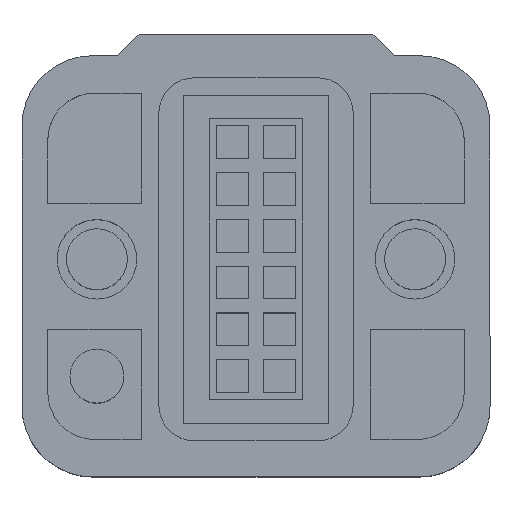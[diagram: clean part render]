
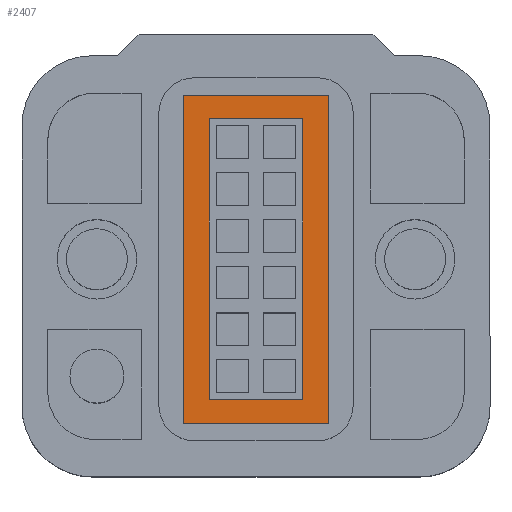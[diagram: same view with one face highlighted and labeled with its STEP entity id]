
A CAD part, top view. The second image highlights one B-rep face of the part: STEP entity #2407.
In plain terms, the highlighted planar face has unit normal (0, 0, 1).
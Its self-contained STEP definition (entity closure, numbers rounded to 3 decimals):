
#138 = VECTOR ( 'NONE', #2411, 1000. ) ;
#212 = VECTOR ( 'NONE', #5058, 1000. ) ;
#267 = DIRECTION ( 'NONE',  ( 0., 1., 0. ) ) ;
#269 = DIRECTION ( 'NONE',  ( -1., 0., 0. ) ) ;
#320 = CARTESIAN_POINT ( 'NONE',  ( -2., -3.4, 1.6 ) ) ;
#341 = ORIENTED_EDGE ( 'NONE', *, *, #2547, .F. ) ;
#385 = DIRECTION ( 'NONE',  ( 1., 0., 0. ) ) ;
#387 = EDGE_CURVE ( 'NONE', #3386, #2519, #1219, .T. ) ;
#758 = CARTESIAN_POINT ( 'NONE',  ( 3.1, -4.4, 1.6 ) ) ;
#812 = CARTESIAN_POINT ( 'NONE',  ( 2., 8.6, 1.6 ) ) ;
#858 = EDGE_CURVE ( 'NONE', #4650, #1564, #2496, .T. ) ;
#1001 = CARTESIAN_POINT ( 'NONE',  ( 3.1, 9.6, 1.6 ) ) ;
#1040 = EDGE_CURVE ( 'NONE', #1816, #3386, #3568, .T. ) ;
#1120 = PLANE ( 'NONE',  #1577 ) ;
#1147 = CARTESIAN_POINT ( 'NONE',  ( 0., 0., 1.6 ) ) ;
#1209 = EDGE_CURVE ( 'NONE', #1734, #5223, #4882, .T. ) ;
#1211 = CARTESIAN_POINT ( 'NONE',  ( -2., 8.6, 1.6 ) ) ;
#1219 = LINE ( 'NONE', #2980, #3925 ) ;
#1456 = CARTESIAN_POINT ( 'NONE',  ( -3.1, 9.6, 1.6 ) ) ;
#1540 = ORIENTED_EDGE ( 'NONE', *, *, #1040, .F. ) ;
#1564 = VERTEX_POINT ( 'NONE', #5291 ) ;
#1577 = AXIS2_PLACEMENT_3D ( 'NONE', #1147, #5294, #2033 ) ;
#1734 = VERTEX_POINT ( 'NONE', #5383 ) ;
#1816 = VERTEX_POINT ( 'NONE', #3612 ) ;
#1925 = ORIENTED_EDGE ( 'NONE', *, *, #4046, .F. ) ;
#1973 = VECTOR ( 'NONE', #2602, 1000. ) ;
#2024 = DIRECTION ( 'NONE',  ( 1., 0., 0. ) ) ;
#2033 = DIRECTION ( 'NONE',  ( 1., 0., 0. ) ) ;
#2084 = LINE ( 'NONE', #3022, #1973 ) ;
#2085 = EDGE_LOOP ( 'NONE', ( #5935, #3024, #5864, #4688 ) ) ;
#2407 = ADVANCED_FACE ( 'NONE', ( #3436, #3880 ), #1120, .T. ) ;
#2411 = DIRECTION ( 'NONE',  ( 0., -1., 0. ) ) ;
#2496 = LINE ( 'NONE', #2553, #5212 ) ;
#2497 = LINE ( 'NONE', #2949, #4651 ) ;
#2519 = VERTEX_POINT ( 'NONE', #1211 ) ;
#2547 = EDGE_CURVE ( 'NONE', #4144, #1816, #3097, .T. ) ;
#2553 = CARTESIAN_POINT ( 'NONE',  ( -3.1, 9.6, 1.6 ) ) ;
#2602 = DIRECTION ( 'NONE',  ( 0., -1., 0. ) ) ;
#2949 = CARTESIAN_POINT ( 'NONE',  ( 3.1, 9.6, 1.6 ) ) ;
#2980 = CARTESIAN_POINT ( 'NONE',  ( -2., 8.6, 1.6 ) ) ;
#3022 = CARTESIAN_POINT ( 'NONE',  ( -2., 8.6, 1.6 ) ) ;
#3024 = ORIENTED_EDGE ( 'NONE', *, *, #1209, .T. ) ;
#3097 = LINE ( 'NONE', #320, #3747 ) ;
#3340 = VECTOR ( 'NONE', #2024, 1000. ) ;
#3386 = VERTEX_POINT ( 'NONE', #5529 ) ;
#3436 = FACE_BOUND ( 'NONE', #4893, .T. ) ;
#3463 = EDGE_CURVE ( 'NONE', #1564, #1734, #4202, .T. ) ;
#3529 = DIRECTION ( 'NONE',  ( -1., 0., 0. ) ) ;
#3568 = LINE ( 'NONE', #812, #212 ) ;
#3612 = CARTESIAN_POINT ( 'NONE',  ( 2., -3.4, 1.6 ) ) ;
#3747 = VECTOR ( 'NONE', #385, 1000. ) ;
#3880 = FACE_OUTER_BOUND ( 'NONE', #2085, .T. ) ;
#3925 = VECTOR ( 'NONE', #269, 1000. ) ;
#4046 = EDGE_CURVE ( 'NONE', #2519, #4144, #2084, .T. ) ;
#4086 = CARTESIAN_POINT ( 'NONE',  ( -2., -3.4, 1.6 ) ) ;
#4144 = VERTEX_POINT ( 'NONE', #4086 ) ;
#4202 = LINE ( 'NONE', #1456, #138 ) ;
#4650 = VERTEX_POINT ( 'NONE', #1001 ) ;
#4651 = VECTOR ( 'NONE', #267, 1000. ) ;
#4688 = ORIENTED_EDGE ( 'NONE', *, *, #858, .T. ) ;
#4834 = EDGE_CURVE ( 'NONE', #5223, #4650, #2497, .T. ) ;
#4882 = LINE ( 'NONE', #5681, #3340 ) ;
#4893 = EDGE_LOOP ( 'NONE', ( #1925, #5948, #1540, #341 ) ) ;
#5058 = DIRECTION ( 'NONE',  ( 0., 1., 0. ) ) ;
#5212 = VECTOR ( 'NONE', #3529, 1000. ) ;
#5223 = VERTEX_POINT ( 'NONE', #758 ) ;
#5291 = CARTESIAN_POINT ( 'NONE',  ( -3.1, 9.6, 1.6 ) ) ;
#5294 = DIRECTION ( 'NONE',  ( 0., 0., 1. ) ) ;
#5383 = CARTESIAN_POINT ( 'NONE',  ( -3.1, -4.4, 1.6 ) ) ;
#5529 = CARTESIAN_POINT ( 'NONE',  ( 2., 8.6, 1.6 ) ) ;
#5681 = CARTESIAN_POINT ( 'NONE',  ( -3.1, -4.4, 1.6 ) ) ;
#5864 = ORIENTED_EDGE ( 'NONE', *, *, #4834, .T. ) ;
#5935 = ORIENTED_EDGE ( 'NONE', *, *, #3463, .T. ) ;
#5948 = ORIENTED_EDGE ( 'NONE', *, *, #387, .F. ) ;
